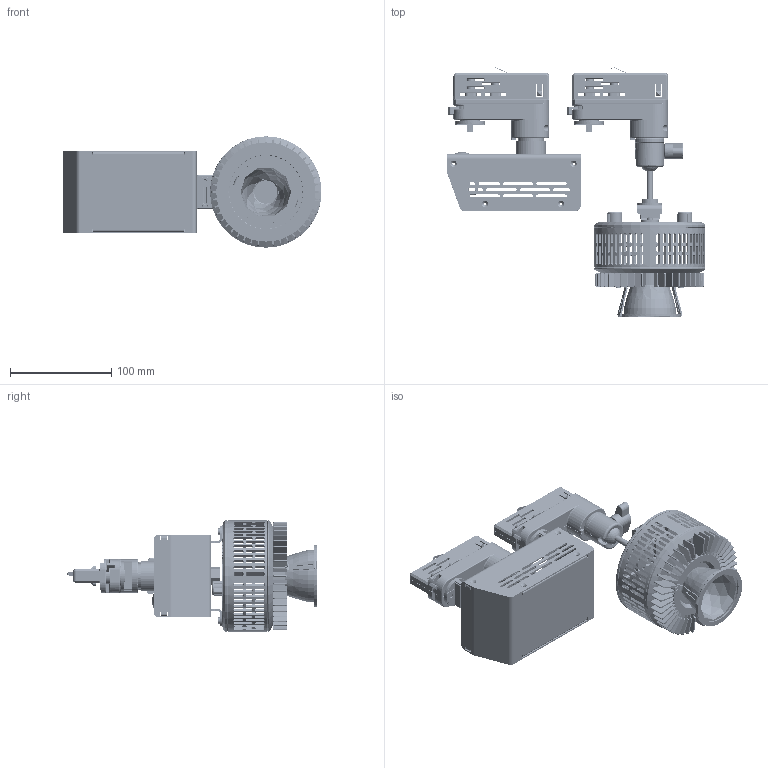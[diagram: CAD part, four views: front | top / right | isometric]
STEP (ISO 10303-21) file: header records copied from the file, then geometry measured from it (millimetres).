
FILE_DESCRIPTION (( 'STEP AP214' ), '1' );
FILE_NAME ('W360N-TOX-PS.STEP', '2024-01-31T00:45:51', ( '' ), ( '' ), 'SwSTEP 2.0', 'SolidWorks 2022', '' );
FILE_SCHEMA (( 'AUTOMOTIVE_DESIGN' ));
Length unit declared in the file: millimetre
Products named in the file (41): 5022445-XXX_A1_DC Plug for W Series, D=12mm_-002(Black); 62280-5413010_ _SCREW, FLAT PAN HEAD, TORX W-THD LOCK, SUS-304, M3xL10mm___; 5120532-XXX_A1_Rear Panel, OD=110, T=8.3mm, W-Series_____; 5022770-XXX_A1_RETAINING COLLAR M10P1.0 FOR ONETRACK POWER BOX OD30x29.8mm___; 504A050-1890165_A1_Wire UL1015 105? 600V VW-1 With 24183BS-2 Terminal RoHS_01; 62280-1343006_ _SCREW, PAN HEAD TROX W-THD LOCK, SUS-410, BLACK, M3xL6mm___; W360N-TOX-PS; 5021416_A1_Hex Nut, M10xP1.5, T8 SUS___; 5048736-008_A1_CONN O type terminal RoHS_Close; 5021926-XXX_A2_KNOB, 18T, OD=14.9, ID=6, L=10MM_C1; 62282-5014005_ _Standard Types of Metric Set Screws, M4xL5, Black___; 62432-11100100140040_ _Hex Nuts Customized, M10 P1.0 S14 T4 W-Zinc___; 5022516-00031_A1_Button Type Round Hole Plug for KANG YANG, Black___; 5022405-XXX_A1_Wing Knob Screws, M6xL8.0mm_-001; 5010176-XXX_A2_Assembly BOM, Kessil W360_35D-TSG; 5022534-XXX_A1_150W Power Box Cover, 132.5x79x54.5(H)mm, TG&TJ&CLP&TEX-PS Type_PS; 5120526-XXX_A2_Assembly BOM, W360 Reflector Type_Reflector - 35D; Track Adapter-120V 2Circuits (9219-2S)___; 62280-1363010_ _SCREW, M3x10mmL, PAN HEAD TORX WITH THREAD LOCK___; 5022431-XXX_A1_Ball Joint Part A, L=23.7mm___; 504A050-1800165_A1_Wire UL1015 105? 600V VW-1 With 24183BS-2 Terminal RoHS_01; 5021925_A1_PLATE, R=37.5, W=50, T=2MM___; 62280-2163006_ _SCREW, FLAT HEAD TORX W-THD LOCK, SUS-304, BLACK, M3.0 x L6.0mm___; 5022452-003_A3_Reflector Sink Holder, D108x14.35(H)mm (-004 is White)_-003(Black); 5020893-2010525020_ _Flat Washer, M10, ID10.5 OD25.0, T2 SUS 304___; 5022708-XXX_A2_Ball Joint Axis, L=65.8mm___; 5120533-XXX_A3_Housing, OD=110, ID=105, T=47.5mm, For Reflector___; 5022693-XXX_A1_Bracket, 98.85x25x17.5, T=2.5mm___; 5020893-3211020005_ _Flat Washer Customized, Nylon Black, ID11mm OD20mm T0.5mm___; 5060069-XXX_A2_W series Reflector-35, OD=62, H=45mm___; 5022430-XXX_A1_Ball Joint Part C (For TDE), L=18.9mm___; 5120511-XXX_A3_Assembly BOM, Power Box for W360_TOX-PS (2Circuits (9219-2S)); 5020757-002_A2_VR Washer, Kessil A360 Aquarium Light___; 5049819-50120_A2_Wire UL1015 18AWG Latch terminal (6.35x0.8mm) RoHS___; 5022453-XXX_A1_35D Sink Holder B, 71.2x62.2x31.1(H)mm___; 5020897-2010216520_ _Helical Spring Washer Customized___; 5120522-XXX_A3_Assembly BOM, W360&W500 Light Mounting Type_For W360_TSG; 5022398-XXX_A1_Plug for W Series, 19x10x9.4mm_For W360; 5022375-XXX_A4_150W Power Box Frame, 132.5x82x56(H)mm___; 5120521-XXX_A2_Assembly BOM, W360 Light Engine_Finish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
Assembly tree (50 placements, depth 4):
  W360N-TOX-PS
    5010176-XXX_A2_Assembly BOM, Kessil W360_35D-TSG
      5120521-XXX_A2_Assembly BOM, W360 Light Engine_Finish
        5120532-XXX_A1_Rear Panel, OD=110, T=8.3mm, W-Series_____
        5022445-XXX_A1_DC Plug for W Series, D=12mm_-002(Black)
        5022398-XXX_A1_Plug for W Series, 19x10x9.4mm_For W360
        62280-1363010_ _SCREW, M3x10mmL, PAN HEAD TORX WITH THREAD LOCK___  x2
        5020757-002_A2_VR Washer, Kessil A360 Aquarium Light___  x2
        5020757-001_A1_VR Nut, Kessil A360 Aquarium Light___  x2
        5021926-XXX_A2_KNOB, 18T, OD=14.9, ID=6, L=10MM_C1  x2
      5120526-XXX_A2_Assembly BOM, W360 Reflector Type_Reflector - 35D
        5120533-XXX_A3_Housing, OD=110, ID=105, T=47.5mm, For Reflector___
        5021925_A1_PLATE, R=37.5, W=50, T=2MM___
        62280-2163006_ _SCREW, FLAT HEAD TORX W-THD LOCK, SUS-304, BLACK, M3.0 x L6.0mm___  x2
        62280-1343006_ _SCREW, PAN HEAD TROX W-THD LOCK, SUS-410, BLACK, M3xL6mm___  x2
        5022452-003_A3_Reflector Sink Holder, D108x14.35(H)mm (-004 is White)_-003(Black)
        5022453-XXX_A1_35D Sink Holder B, 71.2x62.2x31.1(H)mm___
        5060069-XXX_A2_W series Reflector-35, OD=62, H=45mm___
        62280-5413010_ _SCREW, FLAT PAN HEAD, TORX W-THD LOCK, SUS-304, M3xL10mm___  x2
      5120522-XXX_A3_Assembly BOM, W360&W500 Light Mounting Type_For W360_TSG
        5022431-XXX_A1_Ball Joint Part A, L=23.7mm___
        5022430-XXX_A1_Ball Joint Part C (For TDE), L=18.9mm___
        5022708-XXX_A2_Ball Joint Axis, L=65.8mm___
        62282-5014005_ _Standard Types of Metric Set Screws, M4xL5, Black___
        5022405-XXX_A1_Wing Knob Screws, M6xL8.0mm_-001
        5022693-XXX_A1_Bracket, 98.85x25x17.5, T=2.5mm___
        Track Adapter-120V 2Circuits (9219-2S)___
        5020893-2010525020_ _Flat Washer, M10, ID10.5 OD25.0, T2 SUS 304___  x2
        5020897-2010216520_ _Helical Spring Washer Customized___
        5021416_A1_Hex Nut, M10xP1.5, T8 SUS___
    5120511-XXX_A3_Assembly BOM, Power Box for W360_TOX-PS (2Circuits (9219-2S))
      5022375-XXX_A4_150W Power Box Frame, 132.5x82x56(H)mm___
      Track Adapter-120V 2Circuits (9219-2S)___
      5022770-XXX_A1_RETAINING COLLAR M10P1.0 FOR ONETRACK POWER BOX OD30x29.8mm___
      5020893-3211020005_ _Flat Washer Customized, Nylon Black, ID11mm OD20mm T0.5mm___  x2
      5022516-00031_A1_Button Type Round Hole Plug for KANG YANG, Black___
      62432-11100100140040_ _Hex Nuts Customized, M10 P1.0 S14 T4 W-Zinc___
      5049819-50120_A2_Wire UL1015 18AWG Latch terminal (6.35x0.8mm) RoHS___
      5048736-008_A1_CONN O type terminal RoHS_Close
      504A050-1800165_A1_Wire UL1015 105? 600V VW-1 With 24183BS-2 Terminal RoHS_01
      504A050-1890165_A1_Wire UL1015 105? 600V VW-1 With 24183BS-2 Terminal RoHS_01
      5022534-XXX_A1_150W Power Box Cover, 132.5x79x54.5(H)mm, TG&TJ&CLP&TEX-PS Type_PS
Bounding box: 256 x 246.27 x 110 mm (x, y, z)
Volume: 326538.7 mm3; surface area: 350425.8 mm2
Topology: 79 solids, 79 shells, 7198 faces, 19231 edges, 12096 vertices
Faces by surface type: plane 2696, cylinder 2651, bspline 891, torus 630, cone 258, sphere 72
Entity records: 226619 total; most frequent: CARTESIAN_POINT 69312, ORIENTED_EDGE 28988, DIRECTION 24378, EDGE_CURVE 14494, VERTEX_POINT 9253, AXIS2_PLACEMENT_3D 8385, VECTOR 7608, LINE 7608
